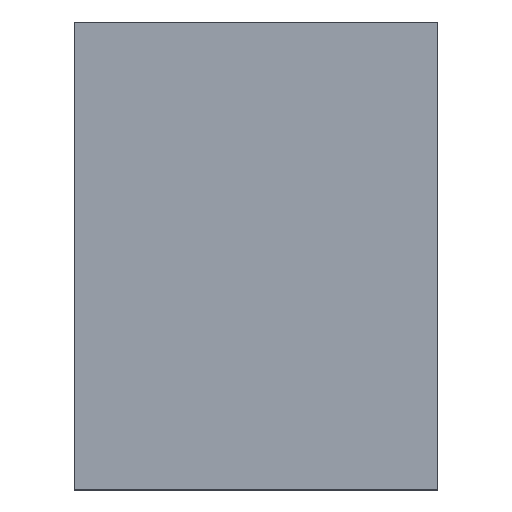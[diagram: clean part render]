
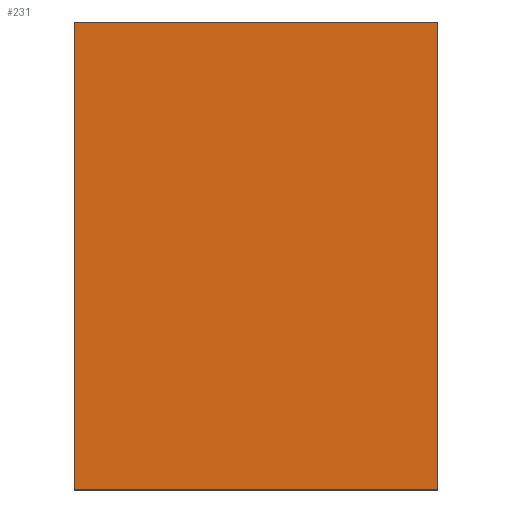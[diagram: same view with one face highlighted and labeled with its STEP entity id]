
A CAD part, top view. The second image highlights one B-rep face of the part: STEP entity #231.
In plain terms, the highlighted planar face has unit normal (0, 0, 1).
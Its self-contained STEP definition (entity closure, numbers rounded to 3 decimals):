
#43 = CARTESIAN_POINT ( 'NONE',  ( 0.437, -0.562, 0.32 ) ) ;
#63 = DIRECTION ( 'NONE',  ( 0., 0., 1. ) ) ;
#88 = LINE ( 'NONE', #278, #757 ) ;
#100 = LINE ( 'NONE', #762, #525 ) ;
#111 = DIRECTION ( 'NONE',  ( -1., 0., 0. ) ) ;
#131 = DIRECTION ( 'NONE',  ( 0., -1., 0. ) ) ;
#138 = DIRECTION ( 'NONE',  ( 1., 0., 0. ) ) ;
#181 = CARTESIAN_POINT ( 'NONE',  ( -0.438, 0.563, 0.32 ) ) ;
#231 = ADVANCED_FACE ( 'NONE', ( #308 ), #428, .T. ) ;
#236 = EDGE_LOOP ( 'NONE', ( #546, #322, #393, #360 ) ) ;
#264 = EDGE_CURVE ( 'NONE', #437, #760, #516, .T. ) ;
#278 = CARTESIAN_POINT ( 'NONE',  ( 0.437, 0.563, 0.32 ) ) ;
#308 = FACE_OUTER_BOUND ( 'NONE', #236, .T. ) ;
#322 = ORIENTED_EDGE ( 'NONE', *, *, #598, .T. ) ;
#360 = ORIENTED_EDGE ( 'NONE', *, *, #264, .T. ) ;
#365 = DIRECTION ( 'NONE',  ( 1., 0., 0. ) ) ;
#393 = ORIENTED_EDGE ( 'NONE', *, *, #814, .T. ) ;
#428 = PLANE ( 'NONE',  #941 ) ;
#437 = VERTEX_POINT ( 'NONE', #848 ) ;
#490 = CARTESIAN_POINT ( 'NONE',  ( -0.438, 0.563, 0.32 ) ) ;
#516 = LINE ( 'NONE', #521, #818 ) ;
#521 = CARTESIAN_POINT ( 'NONE',  ( -0.438, -0.562, 0.32 ) ) ;
#525 = VECTOR ( 'NONE', #131, 1000. ) ;
#543 = LINE ( 'NONE', #490, #879 ) ;
#546 = ORIENTED_EDGE ( 'NONE', *, *, #929, .T. ) ;
#570 = CARTESIAN_POINT ( 'NONE',  ( 0.437, 0.563, 0.32 ) ) ;
#598 = EDGE_CURVE ( 'NONE', #966, #665, #543, .T. ) ;
#665 = VERTEX_POINT ( 'NONE', #181 ) ;
#735 = DIRECTION ( 'NONE',  ( 0., 1., 0. ) ) ;
#757 = VECTOR ( 'NONE', #735, 1000. ) ;
#760 = VERTEX_POINT ( 'NONE', #43 ) ;
#762 = CARTESIAN_POINT ( 'NONE',  ( -0.438, 0.563, 0.32 ) ) ;
#814 = EDGE_CURVE ( 'NONE', #665, #437, #100, .T. ) ;
#818 = VECTOR ( 'NONE', #365, 1000. ) ;
#848 = CARTESIAN_POINT ( 'NONE',  ( -0.438, -0.562, 0.32 ) ) ;
#879 = VECTOR ( 'NONE', #111, 1000. ) ;
#929 = EDGE_CURVE ( 'NONE', #760, #966, #88, .T. ) ;
#941 = AXIS2_PLACEMENT_3D ( 'NONE', #971, #63, #138 ) ;
#966 = VERTEX_POINT ( 'NONE', #570 ) ;
#971 = CARTESIAN_POINT ( 'NONE',  ( 0., 0., 0.32 ) ) ;
